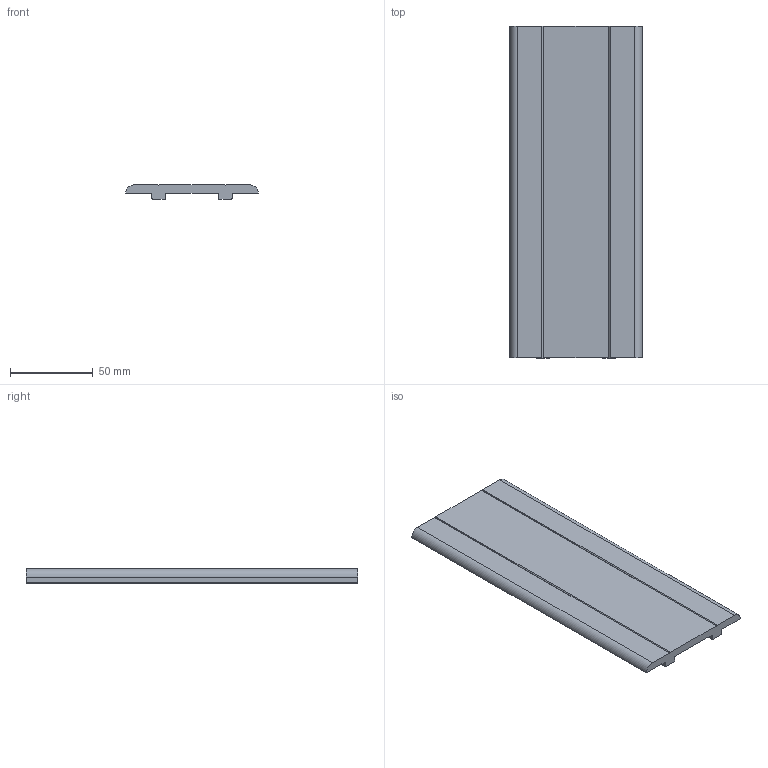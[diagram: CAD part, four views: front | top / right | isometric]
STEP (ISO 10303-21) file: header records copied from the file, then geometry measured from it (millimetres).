
FILE_DESCRIPTION(/* description */ ('Unknown'),/* implementation_level */ '2;1');
FILE_NAME(/* name */ 'NML0580D',/* time_stamp */ '2026-09-02T13:02:16+08:00',/* author */ ('Unknown'),/* organization */ ('Unknown'),/* preprocessor_version */ 'ST-DEVELOPER v16.7',/* originating_system */ 'DEX',/* authorisation */ $);
FILE_SCHEMA (('AUTOMOTIVE_DESIGN {1 0 10303 214 3 1 1}'));
Length unit declared in the file: millimetre
Products named in the file (1): NML0580D
Bounding box: 80 x 200 x 8.5 mm (x, y, z)
Volume: 89227.1 mm3; surface area: 36930.9 mm2
Topology: 1 solids, 1 shells, 24 faces, 66 edges, 44 vertices
Faces by surface type: plane 18, cylinder 6
Entity records: 954 total; most frequent: CARTESIAN_POINT 135, ORIENTED_EDGE 132, DIRECTION 128, EDGE_CURVE 66, LINE 54, VECTOR 54, VERTEX_POINT 44, AXIS2_PLACEMENT_3D 37
